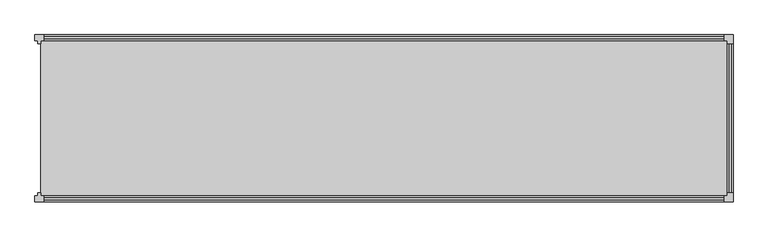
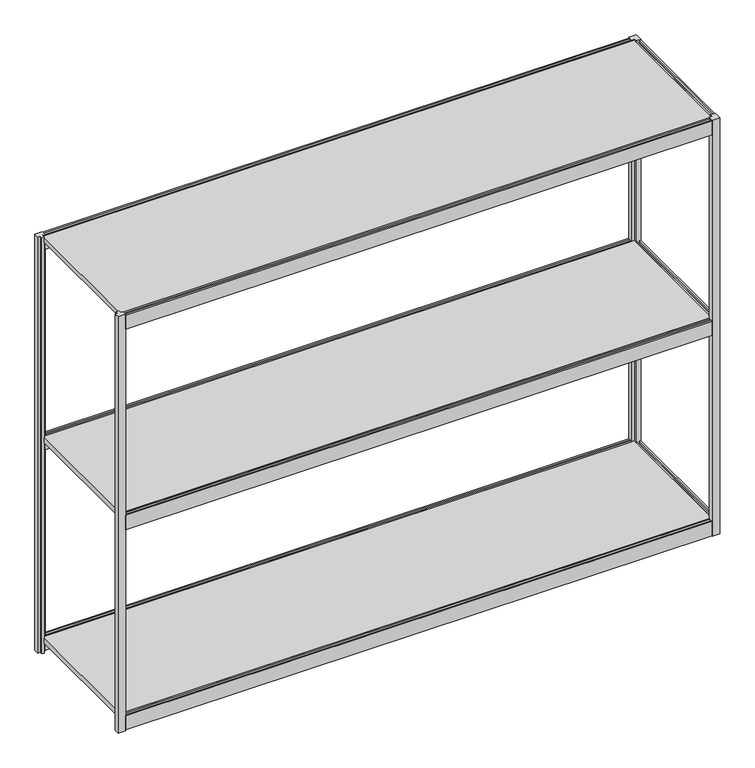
"""IFC4 building model written with IfcOpenShell, lengths in millimetres: furniture geometry, Loft_Wall-Shift-Shelving-Adder : SHIFT-6A-LH."""

from ifc_helpers import new_model, si_unit, frame, origin, origin_with_axes, place, context, project, spatial, polyline, outline, extrude, source, transform, mapped, element, save


def furniture_46b29162(model_context):
    return source(origin(), model_context, "Body", "SweptSolid", [
        extrude(outline(polyline([(690.9435, 1219.2), (690.9435, 1215.1868), (683.2854, 1215.1868), (683.2854, 1207.9732), (690.9435, 1207.9732), (690.9435, 1203.96), (645.7315, 1203.96), (645.7315, 1207.9732), (653.3896, 1207.9732), (653.3896, 1215.1868), (645.7315, 1215.1868), (645.7315, 1219.2), (690.9435, 1219.2)])), frame((0.0, -196.215, 0.0), z_axis=(0.0, 1.0, 0.0), x_axis=(0.0, 0.0, 1.0)), (0.0, 0.0, 1.0), 392.43),
        extrude(outline(polyline([(-203.835, 645.7315), (-207.8482, 645.7315), (-207.8482, 653.3896), (-215.0618, 653.3896), (-215.0618, 645.7315), (-219.075, 645.7315), (-219.075, 690.9435), (-215.0618, 690.9435), (-215.0618, 683.2854), (-207.8482, 683.2854), (-207.8482, 690.9435), (-203.835, 690.9435), (-203.835, 645.7315)])), frame((-586.74, 0.0, 0.0), z_axis=(1.0, 0.0, 0.0), x_axis=(0.0, 1.0, 0.0)), (0.0, 0.0, 1.0), 1783.08),
        extrude(outline(polyline([(203.835, 645.7315), (203.835, 690.9435), (207.8482, 690.9435), (207.8482, 683.2854), (215.0618, 683.2854), (215.0618, 690.9435), (219.075, 690.9435), (219.075, 645.7315), (215.0618, 645.7315), (215.0618, 653.3896), (207.8482, 653.3896), (207.8482, 645.7315), (203.835, 645.7315)])), frame((-586.74, 0.0, 0.0), z_axis=(1.0, 0.0, 0.0), x_axis=(0.0, 1.0, 0.0)), (0.0, 0.0, 1.0), 1783.08),
        extrude(outline(polyline([(1203.96, 203.835), (1203.96, -203.835), (-594.36, -203.835), (-594.36, 203.835), (1203.96, 203.835)])), frame((0.0, 0.0, 675.5101509), z_axis=(0.0, 0.0, 1.0), x_axis=(1.0, 0.0, 0.0)), (0.0, 0.0, 1.0), 15.4333491),
        extrude(outline(polyline([(1334.4525, 1219.2), (1334.4525, 1215.1868), (1326.7944, 1215.1868), (1326.7944, 1207.9732), (1334.4525, 1207.9732), (1334.4525, 1203.96), (1289.2405, 1203.96), (1289.2405, 1207.9732), (1296.8986, 1207.9732), (1296.8986, 1215.1868), (1289.2405, 1215.1868), (1289.2405, 1219.2), (1334.4525, 1219.2)])), frame((0.0, -196.215, 0.0), z_axis=(0.0, 1.0, 0.0), x_axis=(0.0, 0.0, 1.0)), (0.0, 0.0, 1.0), 392.43),
        extrude(outline(polyline([(-203.835, 1289.2405), (-207.8482, 1289.2405), (-207.8482, 1296.8986), (-215.0618, 1296.8986), (-215.0618, 1289.2405), (-219.075, 1289.2405), (-219.075, 1334.4525), (-215.0618, 1334.4525), (-215.0618, 1326.7944), (-207.8482, 1326.7944), (-207.8482, 1334.4525), (-203.835, 1334.4525), (-203.835, 1289.2405)])), frame((-586.74, 0.0, 0.0), z_axis=(1.0, 0.0, 0.0), x_axis=(0.0, 1.0, 0.0)), (0.0, 0.0, 1.0), 1783.08),
        extrude(outline(polyline([(203.835, 1289.2405), (203.835, 1334.4525), (207.8482, 1334.4525), (207.8482, 1326.7944), (215.0618, 1326.7944), (215.0618, 1334.4525), (219.075, 1334.4525), (219.075, 1289.2405), (215.0618, 1289.2405), (215.0618, 1296.8986), (207.8482, 1296.8986), (207.8482, 1289.2405), (203.835, 1289.2405)])), frame((-586.74, 0.0, 0.0), z_axis=(1.0, 0.0, 0.0), x_axis=(0.0, 1.0, 0.0)), (0.0, 0.0, 1.0), 1783.08),
        extrude(outline(polyline([(1203.96, 203.835), (1203.96, -203.835), (-594.36, -203.835), (-594.36, 203.835), (1203.96, 203.835)])), frame((0.0, 0.0, 1319.0191509), z_axis=(0.0, 0.0, 1.0), x_axis=(1.0, 0.0, 0.0)), (0.0, 0.0, 1.0), 15.4333491),
        extrude(outline(polyline([(47.4345, 1219.2), (47.4345, 1215.1868), (39.7764, 1215.1868), (39.7764, 1207.9732), (47.4345, 1207.9732), (47.4345, 1203.96), (2.2225, 1203.96), (2.2225, 1207.9732), (9.8806, 1207.9732), (9.8806, 1215.1868), (2.2225, 1215.1868), (2.2225, 1219.2), (47.4345, 1219.2)])), frame((0.0, -196.215, 0.0), z_axis=(0.0, 1.0, 0.0), x_axis=(0.0, 0.0, 1.0)), (0.0, 0.0, 1.0), 392.43),
        extrude(outline(polyline([(-203.835, 2.2225), (-207.8482, 2.2225), (-207.8482, 9.8806), (-215.0618, 9.8806), (-215.0618, 2.2225), (-219.075, 2.2225), (-219.075, 47.4345), (-215.0618, 47.4345), (-215.0618, 39.7764), (-207.8482, 39.7764), (-207.8482, 47.4345), (-203.835, 47.4345), (-203.835, 2.2225)])), frame((-586.74, 0.0, 0.0), z_axis=(1.0, 0.0, 0.0), x_axis=(0.0, 1.0, 0.0)), (0.0, 0.0, 1.0), 1783.08),
        extrude(outline(polyline([(203.835, 2.2225), (203.835, 47.4345), (207.8482, 47.4345), (207.8482, 39.7764), (215.0618, 39.7764), (215.0618, 47.4345), (219.075, 47.4345), (219.075, 2.2225), (215.0618, 2.2225), (215.0618, 9.8806), (207.8482, 9.8806), (207.8482, 2.2225), (203.835, 2.2225)])), frame((-586.74, 0.0, 0.0), z_axis=(1.0, 0.0, 0.0), x_axis=(0.0, 1.0, 0.0)), (0.0, 0.0, 1.0), 1783.08),
        extrude(outline(polyline([(1203.96, 203.835), (1203.96, -203.835), (-594.36, -203.835), (-594.36, 203.835), (1203.96, 203.835)])), frame((0.0, 0.0, 32.0011509), z_axis=(0.0, 0.0, 1.0), x_axis=(1.0, 0.0, 0.0)), (0.0, 0.0, 1.0), 15.4333491),
        extrude(outline(polyline([(-586.74, -203.835), (-586.74, -219.075), (-609.6, -219.075), (-609.6, -203.835), (-601.6625, -203.835), (-601.6625, -196.215), (-594.36, -196.215), (-594.36, -203.835), (-586.74, -203.835)])), origin_with_axes(), (0.0, 0.0, 1.0), 1336.675),
        extrude(outline(polyline([(1196.34, -203.835), (1203.96, -203.835), (1203.96, -196.215), (1219.2, -196.215), (1219.2, -219.075), (1196.34, -219.075), (1196.34, -203.835)])), origin_with_axes(), (0.0, 0.0, 1.0), 1336.675),
        extrude(outline(polyline([(-586.74, 203.835), (-594.36, 203.835), (-594.36, 196.215), (-601.6625, 196.215), (-601.6625, 203.835), (-609.6, 203.835), (-609.6, 219.075), (-586.74, 219.075), (-586.74, 203.835)])), origin_with_axes(), (0.0, 0.0, 1.0), 1336.675),
        extrude(outline(polyline([(1196.34, 203.835), (1196.34, 219.075), (1219.2, 219.075), (1219.2, 196.215), (1203.96, 196.215), (1203.96, 203.835), (1196.34, 203.835)])), origin_with_axes(), (0.0, 0.0, 1.0), 1336.675),
    ])


if __name__ == "__main__":
    model = new_model("IFC4")
    model_context = context("Model", 3, world=origin())
    ifc_project = project(units=[si_unit("LENGTHUNIT", "METRE", prefix="MILLI")], contexts=[model_context])
    site = spatial("IfcSite", under=ifc_project)
    building = spatial("IfcBuilding", under=site)
    placement = place(None, origin())
    furniture_shape = furniture_46b29162(model_context)
    element("IfcFurniture", 1, ObjectType="Loft_Wall-Shift-Shelving-Adder : SHIFT-6A-LH", at=placement, inside=building, context=model_context, shape_type="MappedRepresentation", body=[
        mapped(furniture_shape, transform((0.0, 0.0, 0.0), x_axis=(1.0, 0.0, 0.0), y_axis=(0.0, 1.0, 0.0), z_axis=(0.0, 0.0, 1.0))),
    ])
    save(model, "model.ifc")
